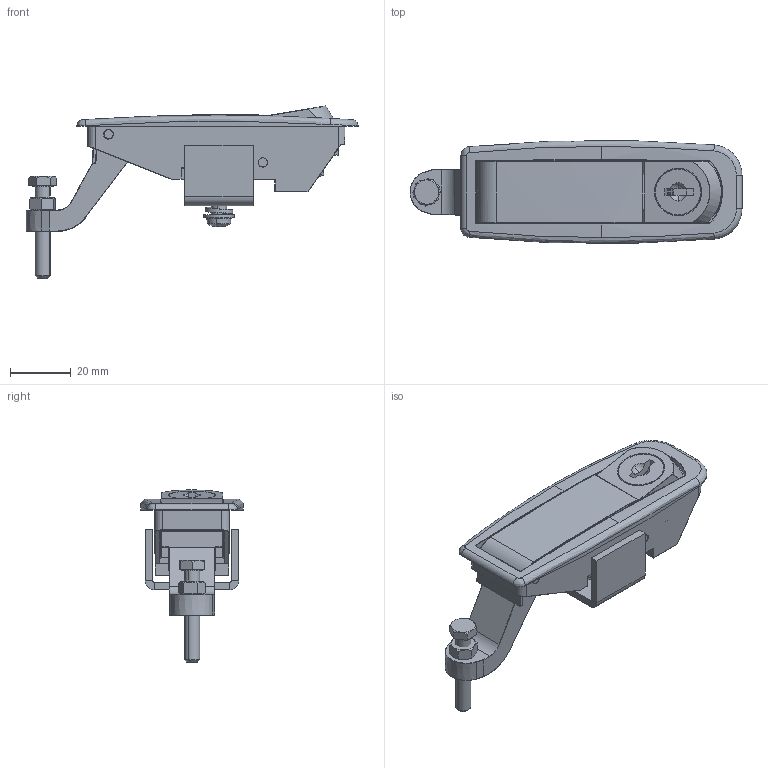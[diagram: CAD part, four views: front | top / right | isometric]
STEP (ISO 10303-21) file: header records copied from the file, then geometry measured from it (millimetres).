
FILE_DESCRIPTION (( 'STEP AP214' ), '1' );
FILE_NAME ('2.615.003.STEP', '2025-01-15T11:19:33', ( '' ), ( '' ), 'SwSTEP 2.0', 'SolidWorks 2021', '' );
FILE_SCHEMA (( 'AUTOMOTIVE_DESIGN' ));
Length unit declared in the file: millimetre
Products named in the file (14): 2.615.003; DIN 934_M5; DIN-7985_M5x12; P.039214_naprｩｾona; DIN 127 B_M5 - ST; P.039824_00-01; P.039678_01-01; P.040086_00-00; P.039811_00-01; DIN 933_M5x30; P.039844_00-00; P.039231_00-00; DIN 125 A_M5; P.040017_naprｩｾony
Assembly tree (16 placements, depth 2):
  2.615.003
    P.039678_01-01
    P.039824_00-01
    P.039811_00-01
    P.039844_00-00  x2
    P.039231_00-00
    DIN-7985_M5x12
    DIN 934_M5
    DIN 127 B_M5 - ST  x2
    DIN 125 A_M5  x2
    P.040017_naprｩｾony
    P.039214_naprｩｾona
    DIN 933_M5x30
    P.040086_00-00
Bounding box: 109.26 x 33.77 x 56.65 mm (x, y, z)
Volume: 30662.4 mm3; surface area: 31098.9 mm2
Topology: 16 solids, 16 shells, 1745 faces, 4148 edges, 2409 vertices
Faces by surface type: plane 646, cylinder 523, bspline 292, sphere 144, torus 88, cone 52
Entity records: 55132 total; most frequent: CARTESIAN_POINT 19444, ORIENTED_EDGE 7620, DIRECTION 7124, EDGE_CURVE 3810, AXIS2_PLACEMENT_3D 2711, VERTEX_POINT 2227, LINE 1702, VECTOR 1702
